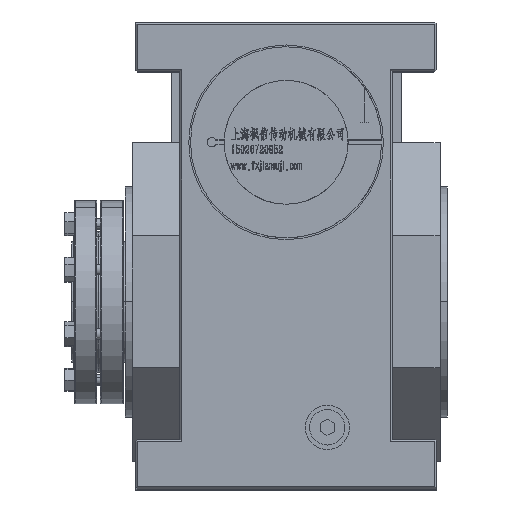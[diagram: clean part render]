
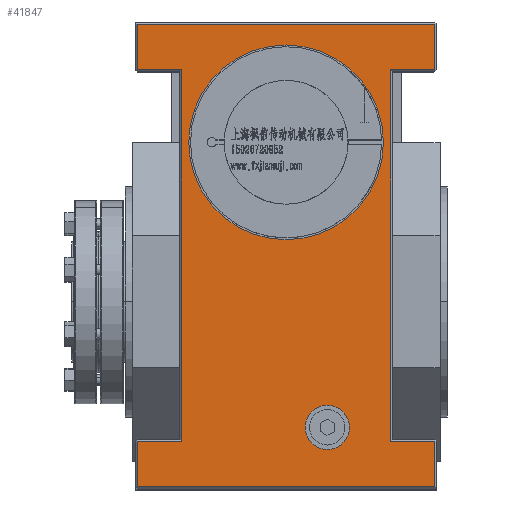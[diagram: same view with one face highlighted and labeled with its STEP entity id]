
A CAD part, top view. The second image highlights one B-rep face of the part: STEP entity #41847.
In plain terms, the highlighted planar face has unit normal (0, 0, 1).
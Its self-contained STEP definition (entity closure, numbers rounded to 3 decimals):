
#805 = ORIENTED_EDGE ( 'NONE', *, *, #3935, .F. ) ;
#2140 = LINE ( 'NONE', #95772, #45392 ) ;
#3802 = VERTEX_POINT ( 'NONE', #37046 ) ;
#3935 = EDGE_CURVE ( 'NONE', #38335, #88576, #58027, .T. ) ;
#4194 = CARTESIAN_POINT ( 'NONE',  ( 85., 158., 114. ) ) ;
#4586 = CARTESIAN_POINT ( 'NONE',  ( -60., 131., 114. ) ) ;
#4769 = CARTESIAN_POINT ( 'NONE',  ( -84., 158., 114. ) ) ;
#5116 = EDGE_CURVE ( 'NONE', #3802, #51506, #67453, .T. ) ;
#5871 = DIRECTION ( 'NONE',  ( 0., -1., 0. ) ) ;
#7178 = AXIS2_PLACEMENT_3D ( 'NONE', #26211, #60222, #25115 ) ;
#9289 = EDGE_CURVE ( 'NONE', #65290, #94870, #73666, .T. ) ;
#10929 = FACE_BOUND ( 'NONE', #37619, .T. ) ;
#11187 = CARTESIAN_POINT ( 'NONE',  ( -84., 131., 114. ) ) ;
#12432 = VECTOR ( 'NONE', #69152, 1000. ) ;
#12563 = FACE_BOUND ( 'NONE', #100725, .T. ) ;
#12694 = CARTESIAN_POINT ( 'NONE',  ( -59., 131., 114. ) ) ;
#13254 = ORIENTED_EDGE ( 'NONE', *, *, #13876, .T. ) ;
#13876 = EDGE_CURVE ( 'NONE', #33371, #3802, #68059, .T. ) ;
#16424 = CARTESIAN_POINT ( 'NONE',  ( 84., -104.5, 114. ) ) ;
#16599 = VERTEX_POINT ( 'NONE', #70258 ) ;
#17436 = CARTESIAN_POINT ( 'NONE',  ( -85., -79., 114. ) ) ;
#18524 = CARTESIAN_POINT ( 'NONE',  ( -55., 90., 114. ) ) ;
#18884 = AXIS2_PLACEMENT_3D ( 'NONE', #92690, #30881, #83236 ) ;
#19408 = DIRECTION ( 'NONE',  ( 1., 0., 0. ) ) ;
#20815 = ORIENTED_EDGE ( 'NONE', *, *, #94942, .T. ) ;
#21119 = ORIENTED_EDGE ( 'NONE', *, *, #55476, .F. ) ;
#24295 = EDGE_CURVE ( 'NONE', #94870, #99421, #87091, .T. ) ;
#25115 = DIRECTION ( 'NONE',  ( 0., 1., 0. ) ) ;
#25289 = DIRECTION ( 'NONE',  ( 0., 1., 0. ) ) ;
#25796 = DIRECTION ( 'NONE',  ( 1., 0., 0. ) ) ;
#26211 = CARTESIAN_POINT ( 'NONE',  ( 0., 90., 114. ) ) ;
#26777 = ORIENTED_EDGE ( 'NONE', *, *, #9289, .T. ) ;
#27767 = CARTESIAN_POINT ( 'NONE',  ( 10.762, -71., 114. ) ) ;
#27984 = EDGE_CURVE ( 'NONE', #88576, #38335, #69518, .T. ) ;
#29104 = VERTEX_POINT ( 'NONE', #82007 ) ;
#29161 = LINE ( 'NONE', #4586, #60496 ) ;
#30292 = ORIENTED_EDGE ( 'NONE', *, *, #5116, .T. ) ;
#30881 = DIRECTION ( 'NONE',  ( 0., 0., 1. ) ) ;
#32193 = CARTESIAN_POINT ( 'NONE',  ( -84., -79., 114. ) ) ;
#32411 = CARTESIAN_POINT ( 'NONE',  ( -59., -78., 114. ) ) ;
#32423 = VECTOR ( 'NONE', #5871, 1000. ) ;
#33371 = VERTEX_POINT ( 'NONE', #16424 ) ;
#34187 = CARTESIAN_POINT ( 'NONE',  ( 23.262, -71., 114. ) ) ;
#34281 = AXIS2_PLACEMENT_3D ( 'NONE', #4194, #44936, #62775 ) ;
#34302 = VERTEX_POINT ( 'NONE', #59923 ) ;
#34762 = CARTESIAN_POINT ( 'NONE',  ( 84., 156.5, 114. ) ) ;
#35386 = VECTOR ( 'NONE', #92004, 1000. ) ;
#37046 = CARTESIAN_POINT ( 'NONE',  ( 84., -79., 114. ) ) ;
#37203 = CARTESIAN_POINT ( 'NONE',  ( 59., -79., 114. ) ) ;
#37619 = EDGE_LOOP ( 'NONE', ( #98747, #21119 ) ) ;
#38104 = CARTESIAN_POINT ( 'NONE',  ( -59., -79., 114. ) ) ;
#38335 = VERTEX_POINT ( 'NONE', #18524 ) ;
#39674 = DIRECTION ( 'NONE',  ( 1., 0., 0. ) ) ;
#40577 = ORIENTED_EDGE ( 'NONE', *, *, #102885, .T. ) ;
#40884 = VECTOR ( 'NONE', #101611, 1000. ) ;
#41847 = ADVANCED_FACE ( 'NONE', ( #10929, #12563, #104544 ), #46022, .F. ) ;
#42165 = CIRCLE ( 'NONE', #61792, 12.5 ) ;
#44878 = VECTOR ( 'NONE', #101992, 1000. ) ;
#44936 = DIRECTION ( 'NONE',  ( 0., 0., -1. ) ) ;
#45392 = VECTOR ( 'NONE', #19408, 1000. ) ;
#46022 = PLANE ( 'NONE',  #34281 ) ;
#46793 = VERTEX_POINT ( 'NONE', #11187 ) ;
#46922 = ORIENTED_EDGE ( 'NONE', *, *, #68019, .T. ) ;
#48062 = CARTESIAN_POINT ( 'NONE',  ( 85., 156.5, 114. ) ) ;
#48955 = LINE ( 'NONE', #81876, #69913 ) ;
#49720 = VECTOR ( 'NONE', #73172, 1000. ) ;
#50329 = LINE ( 'NONE', #93237, #40884 ) ;
#51506 = VERTEX_POINT ( 'NONE', #37203 ) ;
#52158 = AXIS2_PLACEMENT_3D ( 'NONE', #34187, #102152, #25796 ) ;
#52698 = DIRECTION ( 'NONE',  ( 0., 0., 1. ) ) ;
#53087 = CARTESIAN_POINT ( 'NONE',  ( 35.762, -71., 114. ) ) ;
#53816 = CARTESIAN_POINT ( 'NONE',  ( 23.262, -71., 114. ) ) ;
#54531 = VECTOR ( 'NONE', #25289, 1000. ) ;
#55476 = EDGE_CURVE ( 'NONE', #86151, #74861, #82473, .T. ) ;
#58027 = CIRCLE ( 'NONE', #18884, 55. ) ;
#59923 = CARTESIAN_POINT ( 'NONE',  ( 84., 156.5, 114. ) ) ;
#60222 = DIRECTION ( 'NONE',  ( 0., 0., 1. ) ) ;
#60496 = VECTOR ( 'NONE', #39674, 1000. ) ;
#60961 = EDGE_CURVE ( 'NONE', #16599, #34302, #92720, .T. ) ;
#61792 = AXIS2_PLACEMENT_3D ( 'NONE', #53816, #52698, #62189 ) ;
#62189 = DIRECTION ( 'NONE',  ( 1., 0., 0. ) ) ;
#62389 = EDGE_LOOP ( 'NONE', ( #93019, #103814, #46922, #99752, #40577, #26777, #68521, #85276, #98225, #13254, #30292, #20815 ) ) ;
#62775 = DIRECTION ( 'NONE',  ( -1., 0., 0. ) ) ;
#63207 = CARTESIAN_POINT ( 'NONE',  ( 59., 130., 114. ) ) ;
#64030 = EDGE_CURVE ( 'NONE', #74861, #86151, #42165, .T. ) ;
#65290 = VERTEX_POINT ( 'NONE', #12694 ) ;
#67453 = LINE ( 'NONE', #68020, #44878 ) ;
#68019 = EDGE_CURVE ( 'NONE', #34302, #29104, #80981, .T. ) ;
#68020 = CARTESIAN_POINT ( 'NONE',  ( 85., -79., 114. ) ) ;
#68059 = LINE ( 'NONE', #103126, #12432 ) ;
#68521 = ORIENTED_EDGE ( 'NONE', *, *, #24295, .T. ) ;
#68740 = DIRECTION ( 'NONE',  ( -1., 0., 0. ) ) ;
#69152 = DIRECTION ( 'NONE',  ( 0., 1., 0. ) ) ;
#69219 = VERTEX_POINT ( 'NONE', #82581 ) ;
#69518 = CIRCLE ( 'NONE', #7178, 55. ) ;
#69913 = VECTOR ( 'NONE', #109684, 1000. ) ;
#70258 = CARTESIAN_POINT ( 'NONE',  ( 84., 131., 114. ) ) ;
#71253 = CARTESIAN_POINT ( 'NONE',  ( 55., 90., 114. ) ) ;
#72005 = ORIENTED_EDGE ( 'NONE', *, *, #27984, .F. ) ;
#73172 = DIRECTION ( 'NONE',  ( -1., 0., 0. ) ) ;
#73666 = LINE ( 'NONE', #32411, #35386 ) ;
#74861 = VERTEX_POINT ( 'NONE', #53087 ) ;
#80981 = LINE ( 'NONE', #48062, #49720 ) ;
#81421 = EDGE_CURVE ( 'NONE', #29104, #46793, #106770, .T. ) ;
#81876 = CARTESIAN_POINT ( 'NONE',  ( -84., 158., 114. ) ) ;
#82007 = CARTESIAN_POINT ( 'NONE',  ( -84., 156.5, 114. ) ) ;
#82473 = CIRCLE ( 'NONE', #52158, 12.5 ) ;
#82581 = CARTESIAN_POINT ( 'NONE',  ( 59., 131., 114. ) ) ;
#83236 = DIRECTION ( 'NONE',  ( 0., 1., 0. ) ) ;
#85099 = EDGE_CURVE ( 'NONE', #99421, #90479, #48955, .T. ) ;
#85276 = ORIENTED_EDGE ( 'NONE', *, *, #85099, .T. ) ;
#86151 = VERTEX_POINT ( 'NONE', #27767 ) ;
#87091 = LINE ( 'NONE', #17436, #87435 ) ;
#87435 = VECTOR ( 'NONE', #68740, 1000. ) ;
#88251 = LINE ( 'NONE', #63207, #109407 ) ;
#88576 = VERTEX_POINT ( 'NONE', #71253 ) ;
#90479 = VERTEX_POINT ( 'NONE', #104846 ) ;
#92004 = DIRECTION ( 'NONE',  ( 0., -1., 0. ) ) ;
#92690 = CARTESIAN_POINT ( 'NONE',  ( 0., 90., 114. ) ) ;
#92720 = LINE ( 'NONE', #34762, #54531 ) ;
#93019 = ORIENTED_EDGE ( 'NONE', *, *, #93153, .T. ) ;
#93153 = EDGE_CURVE ( 'NONE', #69219, #16599, #2140, .T. ) ;
#93237 = CARTESIAN_POINT ( 'NONE',  ( 85., -104.5, 114. ) ) ;
#94870 = VERTEX_POINT ( 'NONE', #38104 ) ;
#94942 = EDGE_CURVE ( 'NONE', #51506, #69219, #88251, .T. ) ;
#95772 = CARTESIAN_POINT ( 'NONE',  ( 85., 131., 114. ) ) ;
#98225 = ORIENTED_EDGE ( 'NONE', *, *, #105812, .T. ) ;
#98747 = ORIENTED_EDGE ( 'NONE', *, *, #64030, .F. ) ;
#98807 = DIRECTION ( 'NONE',  ( 0., 1., 0. ) ) ;
#99421 = VERTEX_POINT ( 'NONE', #32193 ) ;
#99752 = ORIENTED_EDGE ( 'NONE', *, *, #81421, .T. ) ;
#100725 = EDGE_LOOP ( 'NONE', ( #805, #72005 ) ) ;
#101611 = DIRECTION ( 'NONE',  ( 1., 0., 0. ) ) ;
#101992 = DIRECTION ( 'NONE',  ( -1., 0., 0. ) ) ;
#102152 = DIRECTION ( 'NONE',  ( 0., 0., 1. ) ) ;
#102885 = EDGE_CURVE ( 'NONE', #46793, #65290, #29161, .T. ) ;
#103126 = CARTESIAN_POINT ( 'NONE',  ( 84., -78., 114. ) ) ;
#103814 = ORIENTED_EDGE ( 'NONE', *, *, #60961, .T. ) ;
#104544 = FACE_OUTER_BOUND ( 'NONE', #62389, .T. ) ;
#104846 = CARTESIAN_POINT ( 'NONE',  ( -84., -104.5, 114. ) ) ;
#105812 = EDGE_CURVE ( 'NONE', #90479, #33371, #50329, .T. ) ;
#106770 = LINE ( 'NONE', #4769, #32423 ) ;
#109407 = VECTOR ( 'NONE', #98807, 1000. ) ;
#109684 = DIRECTION ( 'NONE',  ( 0., -1., 0. ) ) ;
